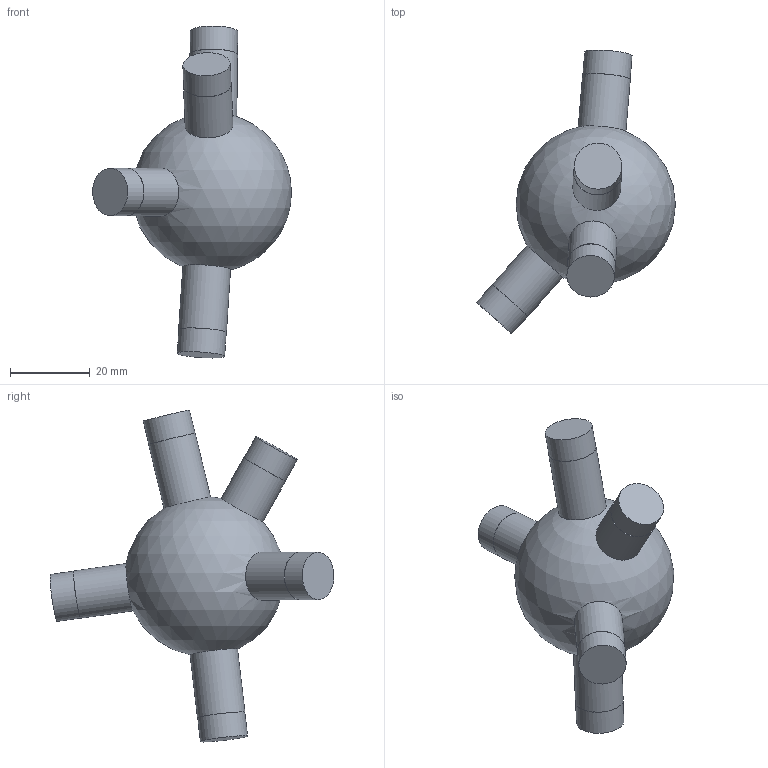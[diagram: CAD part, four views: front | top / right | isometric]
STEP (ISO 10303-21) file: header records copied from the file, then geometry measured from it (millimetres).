
FILE_DESCRIPTION(('Open CASCADE Model'),'2;1');
FILE_NAME('Open CASCADE Shape Model','2026-10-21T12:47:57',('Author'),( 'Open CASCADE'),'Open CASCADE STEP processor 7.9','Open CASCADE 7.9' ,'Unknown');
FILE_SCHEMA(('AUTOMOTIVE_DESIGN { 1 0 10303 214 1 1 1 1 }'));
Length unit declared in the file: millimetre
Products named in the file (1): Open CASCADE STEP translator 7.9 143
Bounding box: 49.88 x 71.19 x 83.24 mm (x, y, z)
Volume: 44560.3 mm3; surface area: 8793.4 mm2
Topology: 1 solids, 1 shells, 21 faces, 33 edges, 22 vertices
Faces by surface type: cylinder 10, plane 10, sphere 1
Full cylindrical faces by diameter (mm): 11.9 x5, 12 x5
Entity records: 1328 total; most frequent: CARTESIAN_POINT 556, DIRECTION 159, ORIENTED_EDGE 66, PCURVE 66, DEFINITIONAL_REPRESENTATION 66, LINE 54, VECTOR 54, AXIS2_PLACEMENT_3D 45
